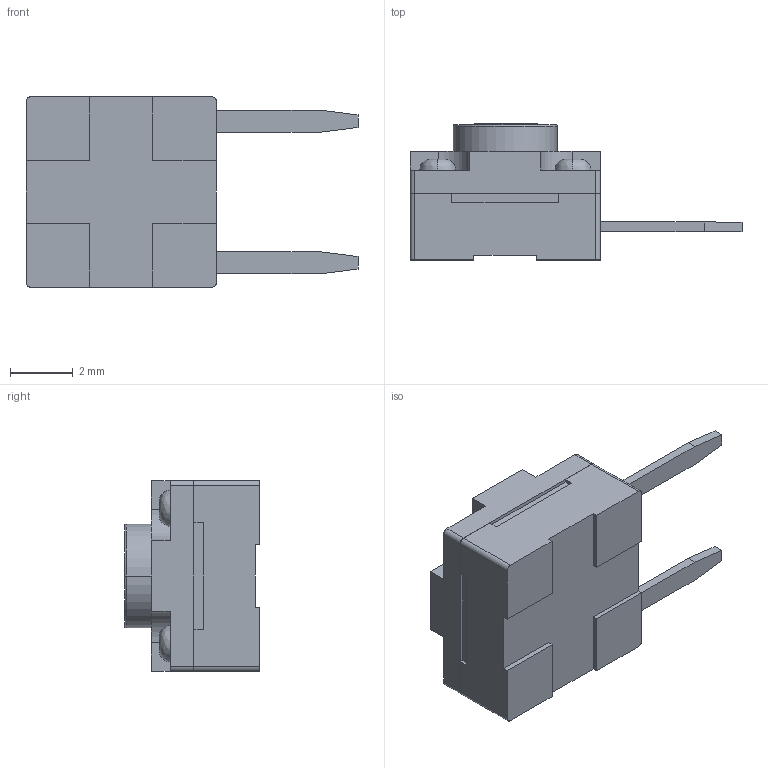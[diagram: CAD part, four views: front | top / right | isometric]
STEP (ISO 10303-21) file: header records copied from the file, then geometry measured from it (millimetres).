
FILE_DESCRIPTION((''),'2;1');
FILE_NAME('ASM0005_ASM','2024-01-11T',('WYH'),(''),'PRO/ENGINEER BY PARAMETRIC TECHNOLOGY CORPORATION, 2013040','PRO/ENGINEER BY PARAMETRIC TECHNOLOGY CORPORATION, 2013040','');
FILE_SCHEMA(('CONFIG_CONTROL_DESIGN'));
Length unit declared in the file: millimetre
Products named in the file (1): ASM0005_ASM
Bounding box: 10.55 x 4.32 x 6.05 mm (x, y, z)
Volume: 124.5 mm3; surface area: 257.1 mm2
Topology: 1 solids, 1 shells, 154 faces, 412 edges, 274 vertices
Faces by surface type: plane 118, cylinder 26, bspline 8, torus 2
Entity records: 5002 total; most frequent: CARTESIAN_POINT 1056, ORIENTED_EDGE 824, DIRECTION 784, EDGE_CURVE 412, VECTOR 332, LINE 332, VERTEX_POINT 274, AXIS2_PLACEMENT_3D 226
